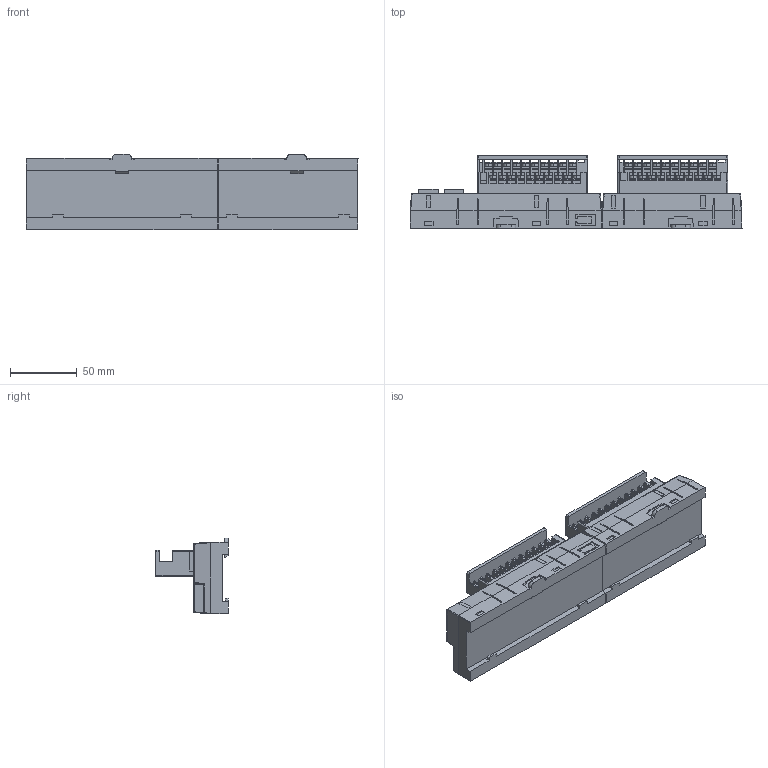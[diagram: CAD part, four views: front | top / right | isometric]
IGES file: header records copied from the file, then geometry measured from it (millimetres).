
Start section: SolidWorks IGES file using analytic representation for surfaces
Global section: file name: C:\Users\kawanishi.SHINKO-TECHNOS\かわにし\3D データ\RG-M3\D20-026\HP_3D\RG_iges\RG-M□_32_200420.IGS; native system: SolidWorks 2022; preprocessor: SolidWorks 2022; author: kawanishi; date: 251119.134841; units: millimetre
Bounding box: 249.22 x 54.3 x 57.01 mm (x, y, z)
Surface area: 78991.7 mm2 (no closed solid volume)
Topology: 0 solids, 0 shells, 2077 faces, 17740 edges, 17740 vertices
Faces by surface type: bspline 1832, revolution 245
